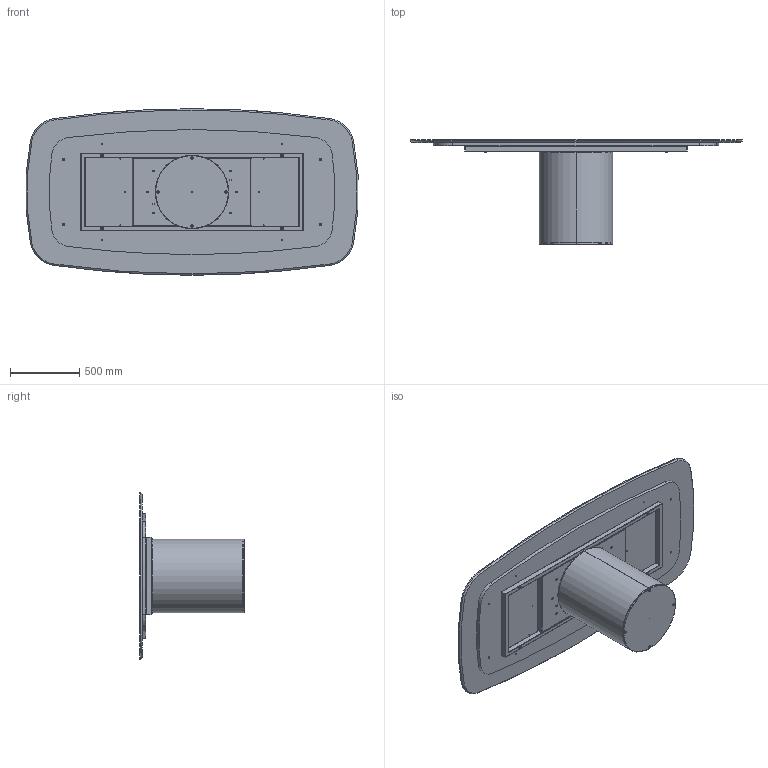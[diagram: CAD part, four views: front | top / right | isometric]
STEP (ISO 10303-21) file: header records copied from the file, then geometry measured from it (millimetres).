
FILE_DESCRIPTION (( 'STEP AP203' ), '1' );
FILE_NAME ('CI43M.STEP', '2024-08-08T07:26:38', ( '' ), ( '' ), 'SwSTEP 2.0', 'SolidWorks 2022', '' );
FILE_SCHEMA (( 'CONFIG_CONTROL_DESIGN' ));
Length unit declared in the file: millimetre
Products named in the file (14): C2B000000-03-CILINDRO BASE D.530mm_Normale; M4XMXX-00-Piani Sagomati in marmo_2400x1200; TTAV01-05-TELAIO UNIVERSALE X TAVOLI 180 240cm; COLLO TELAIO UNIVERSALE TTAV01 CON FERRAMENTA_MTG TOP LEGNO-MARMO-KING; M8xXXmm_hex_M8X20mm; TRUXXXXXX-00-NOBILITATO GR CON SUPP TRUCIOLARE SP. 25_TRU00007_2100x900; TTAV01_01-05-TELAIO UNIVERSALE X TAVOLI 180 240cm; CI43M; M8xXXmm_M8x55mm; M4X-00-Piani Sagomati in marmo_2400 x 1200; C2B000000_01-00-struttura cilindro D.530mm; TTAV01_02-05-VASSOIO IRRIGIDIMENTO TELAIO UNIVERSALE; C2B000000_02-01-ZAVORRA IN FERRO D.530mm; rondella M8_8X24
Assembly tree (22 placements, depth 4):
  CI43M
    C2B000000-03-CILINDRO BASE D.530mm_Normale
      C2B000000_01-00-struttura cilindro D.530mm
      C2B000000_02-01-ZAVORRA IN FERRO D.530mm
      M8xXXmm_hex_M8X20mm  x4
    COLLO TELAIO UNIVERSALE TTAV01 CON FERRAMENTA_MTG TOP LEGNO-MARMO-KING
      TTAV01-05-TELAIO UNIVERSALE X TAVOLI 180 240cm
        TTAV01_02-05-VASSOIO IRRIGIDIMENTO TELAIO UNIVERSALE
        TTAV01_01-05-TELAIO UNIVERSALE X TAVOLI 180 240cm
      rondella M8_8X24  x4
      M8xXXmm_M8x55mm  x4
    M4XMXX-00-Piani Sagomati in marmo_2400x1200
      M4X-00-Piani Sagomati in marmo_2400 x 1200
      TRUXXXXXX-00-NOBILITATO GR CON SUPP TRUCIOLARE SP. 25_TRU00007_2100x900
Bounding box: 2391.9 x 755 x 1200 mm (x, y, z)
Volume: 104477158.3 mm3; surface area: 14093631.1 mm2
Topology: 21 solids, 21 shells, 797 faces, 1883 edges, 1091 vertices
Faces by surface type: cylinder 294, plane 294, cone 131, torus 56, sphere 22
Entity records: 18058 total; most frequent: DIRECTION 3034, CARTESIAN_POINT 2809, ORIENTED_EDGE 2642, EDGE_CURVE 1321, AXIS2_PLACEMENT_3D 1157, VERTEX_POINT 814, VECTOR 720, LINE 720
